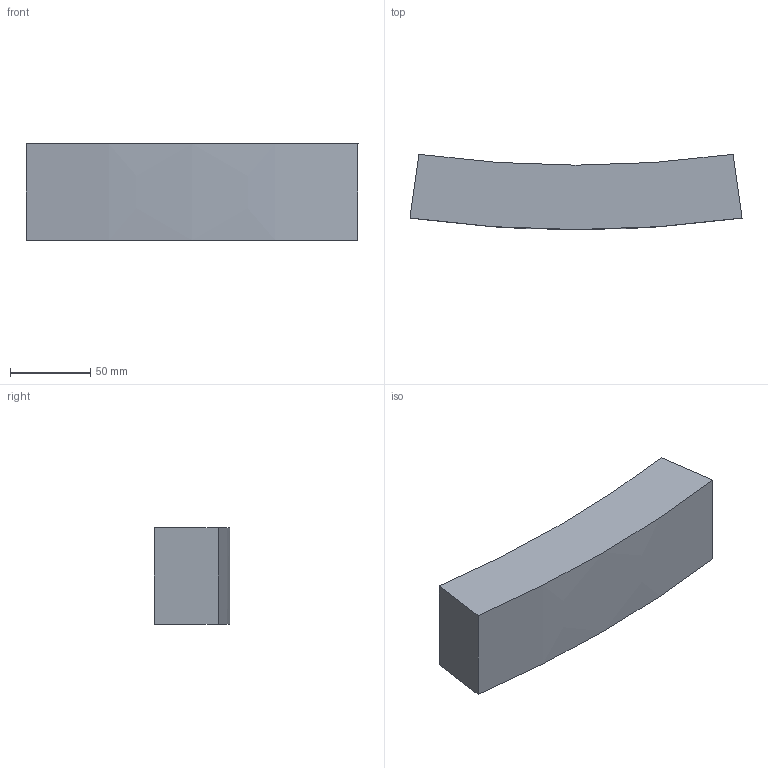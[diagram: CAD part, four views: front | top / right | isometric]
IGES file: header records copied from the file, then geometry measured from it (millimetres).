
Start section:  PTC IGES file: d160-1600_fixbloc_d710_pk-01.igs
Global section: file name: d160-1600_fixbloc_d710_pk-01.igs; native system: Creo Parametric by PTC Inc.; preprocessor: 2019030; author: demmerls; organization: Unknown; date: 20200928.090106; units: millimetre
Bounding box: 206.32 x 46.75 x 60 mm (x, y, z)
Surface area: 45091.9 mm2 (no closed solid volume)
Topology: 0 solids, 0 shells, 6 faces, 24 edges, 24 vertices
Faces by surface type: bspline 6
